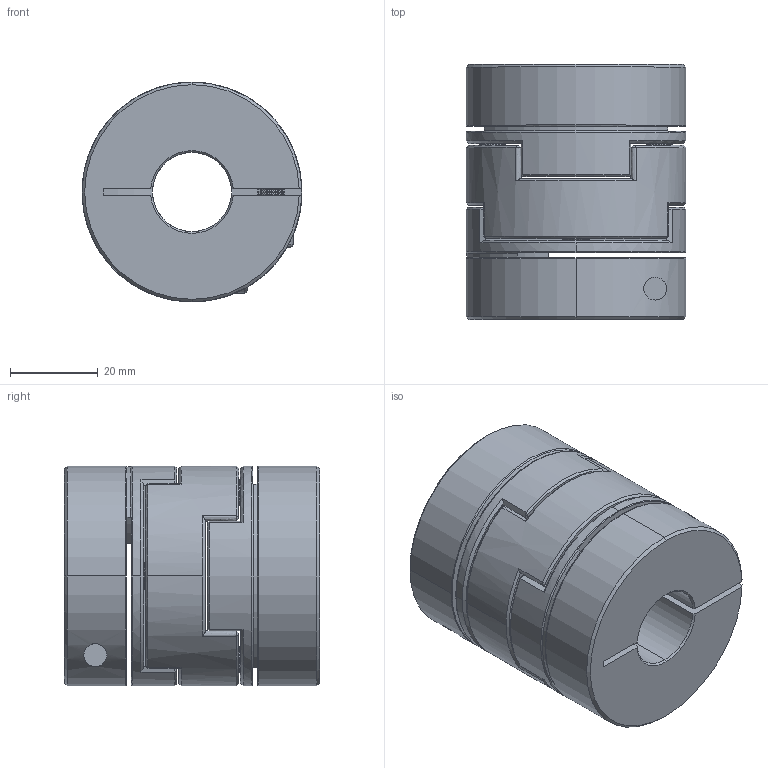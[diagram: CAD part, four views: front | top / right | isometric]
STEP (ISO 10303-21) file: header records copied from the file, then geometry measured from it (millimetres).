
FILE_DESCRIPTION (( 'STEP AP203' ), '1' );
FILE_NAME ('LZ-B-D50L58-18-22.STEP', '2021-10-29T08:13:57', ( '' ), ( '' ), 'SwSTEP 2.0', 'SolidWorks 2018', '' );
FILE_SCHEMA (( 'CONFIG_CONTROL_DESIGN' ));
Length unit declared in the file: millimetre
Products named in the file (1): LZ-B-D50L58-18-22
Bounding box: 50 x 58 x 50 mm (x, y, z)
Volume: 87596.5 mm3; surface area: 29708.8 mm2
Topology: 1 solids, 27 shells, 560 faces, 1364 edges, 810 vertices
Faces by surface type: cone 252, cylinder 160, plane 90, bspline 54, torus 4
Entity records: 17422 total; most frequent: CARTESIAN_POINT 4342, DIRECTION 2782, ORIENTED_EDGE 2720, EDGE_CURVE 1360, AXIS2_PLACEMENT_3D 1123, VERTEX_POINT 810, CIRCLE 616, EDGE_LOOP 594
